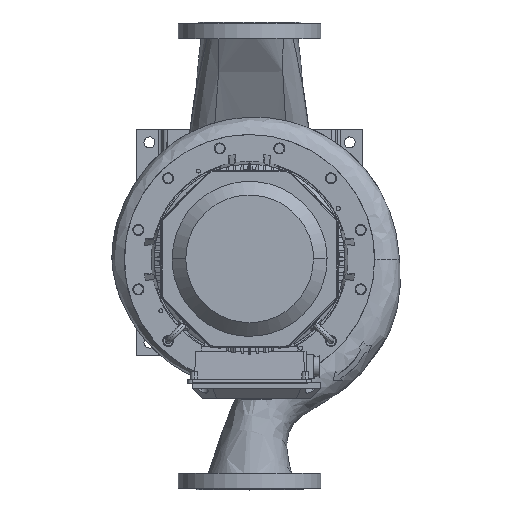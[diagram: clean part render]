
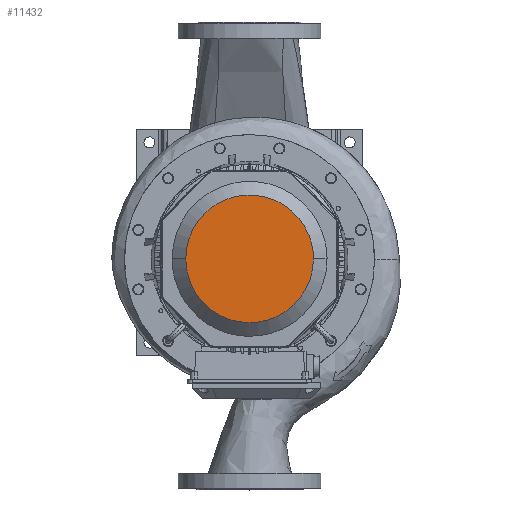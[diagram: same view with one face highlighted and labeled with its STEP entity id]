
A CAD part, top view. The second image highlights one B-rep face of the part: STEP entity #11432.
In plain terms, the highlighted free-form (B-spline) face has degree [1, 1] with [2, 2] control points.
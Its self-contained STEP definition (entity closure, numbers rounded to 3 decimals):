
#11432=ADVANCED_FACE('     F83',(#23082),#23083,.T.);
#11608=EDGE_CURVE('    E195',#23348,#23349,#23350,.T.);
#11612=EDGE_CURVE('    E195',#23349,#23348,#23354,.T.);
#23082=FACE_OUTER_BOUND('',#53784,.T.);
#23083=B_SPLINE_SURFACE_WITH_KNOTS('',1,1,((#53785,#53786),(#53787,#53788)),.UNSPECIFIED.,.F.,.F.,.F.,(2,2),(2,2),(0.044,0.955),(0.039,0.96),.UNSPECIFIED.);
#23348=VERTEX_POINT('',#55340);
#23349=VERTEX_POINT('',#55341);
#23350=(B_SPLINE_CURVE(2,(#55343,#55344,#55345,#55346,#55347),.UNSPECIFIED.,.F.,.F.)B_SPLINE_CURVE_WITH_KNOTS((3,2,3),(62.047,82.73,124.095),.UNSPECIFIED.)RATIONAL_B_SPLINE_CURVE((0.75,0.75,1.0,0.5,1.0))BOUNDED_CURVE()REPRESENTATION_ITEM('')GEOMETRIC_REPRESENTATION_ITEM()CURVE());
#23354=(B_SPLINE_CURVE(2,(#55361,#55362,#55363,#55364,#55365),.UNSPECIFIED.,.F.,.F.)B_SPLINE_CURVE_WITH_KNOTS((3,2,3),(0.0,41.365,62.047),.UNSPECIFIED.)RATIONAL_B_SPLINE_CURVE((1.0,0.5,1.0,0.75,0.75))BOUNDED_CURVE()REPRESENTATION_ITEM('')GEOMETRIC_REPRESENTATION_ITEM()CURVE());
#53784=EDGE_LOOP('',(#72419,#72420));
#53785=CARTESIAN_POINT('',(-148.051,129.131,-177.0));
#53786=CARTESIAN_POINT('',(-148.051,-126.525,-177.0));
#53787=CARTESIAN_POINT('',(107.447,129.131,-177.0));
#53788=CARTESIAN_POINT('',(107.447,-126.525,-177.0));
#55340=CARTESIAN_POINT('',(-147.622,1.096,-177.0));
#55341=CARTESIAN_POINT('',(107.438,1.096,-177.0));
#55343=CARTESIAN_POINT('',(-147.622,1.096,-177.0));
#55344=CARTESIAN_POINT('',(-147.622,-72.533,-177.0));
#55345=CARTESIAN_POINT('',(-83.857,-109.348,-177.0));
#55346=CARTESIAN_POINT('',(107.438,-219.792,-177.0));
#55347=CARTESIAN_POINT('',(107.438,1.096,-177.0));
#55361=CARTESIAN_POINT('',(107.438,1.096,-177.0));
#55362=CARTESIAN_POINT('',(107.438,221.985,-177.0));
#55363=CARTESIAN_POINT('',(-83.857,111.541,-177.0));
#55364=CARTESIAN_POINT('',(-147.622,74.726,-177.0));
#55365=CARTESIAN_POINT('',(-147.622,1.096,-177.0));
#72419=ORIENTED_EDGE('',*,*,#11612,.F.);
#72420=ORIENTED_EDGE('',*,*,#11608,.F.);
